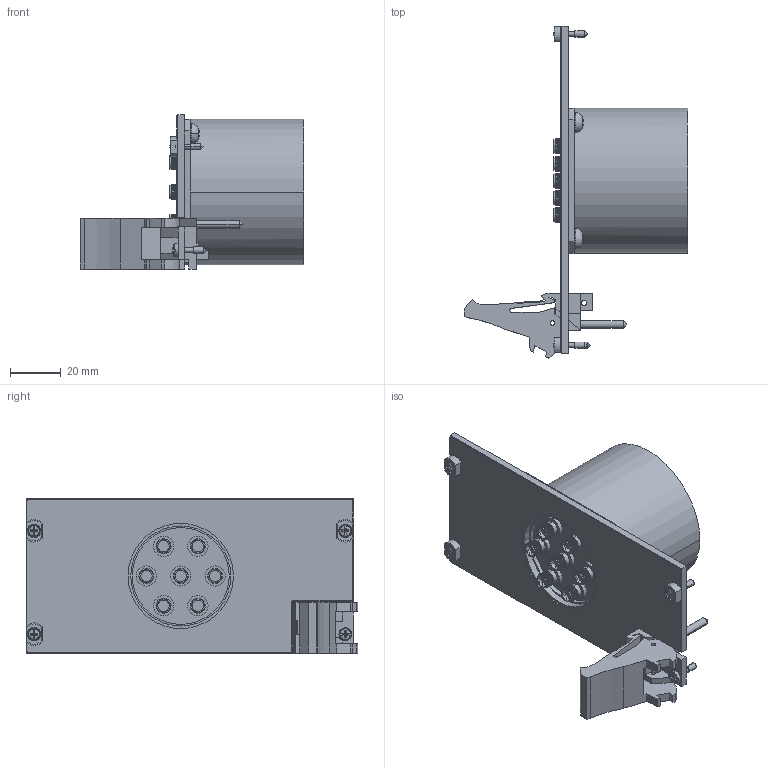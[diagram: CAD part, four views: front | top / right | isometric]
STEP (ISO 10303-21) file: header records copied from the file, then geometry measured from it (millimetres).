
FILE_DESCRIPTION((''),'2;1');
FILE_NAME('CU_PXI-2597','2009-09-10T',('jjorden'),(''),'PRO/ENGINEER BY PARAMETRIC TECHNOLOGY CORPORATION, 2006080','PRO/ENGINEER BY PARAMETRIC TECHNOLOGY CORPORATION, 2006080','');
FILE_SCHEMA(('CONFIG_CONTROL_DESIGN'));
Length unit declared in the file: inch
Products named in the file (1): CU_PXI-2597
Bounding box: 87.81 x 130.5 x 60.66 mm (x, y, z)
Volume: 148850.3 mm3; surface area: 34567.2 mm2
Topology: 1 solids, 1 shells, 1017 faces, 2336 edges, 1363 vertices
Faces by surface type: plane 438, cone 346, cylinder 169, sphere 24, bspline 24, torus 16
Entity records: 29503 total; most frequent: CARTESIAN_POINT 6169, DIRECTION 5123, ORIENTED_EDGE 4624, EDGE_CURVE 2312, AXIS2_PLACEMENT_3D 1887, VERTEX_POINT 1439, VECTOR 1349, LINE 1349
